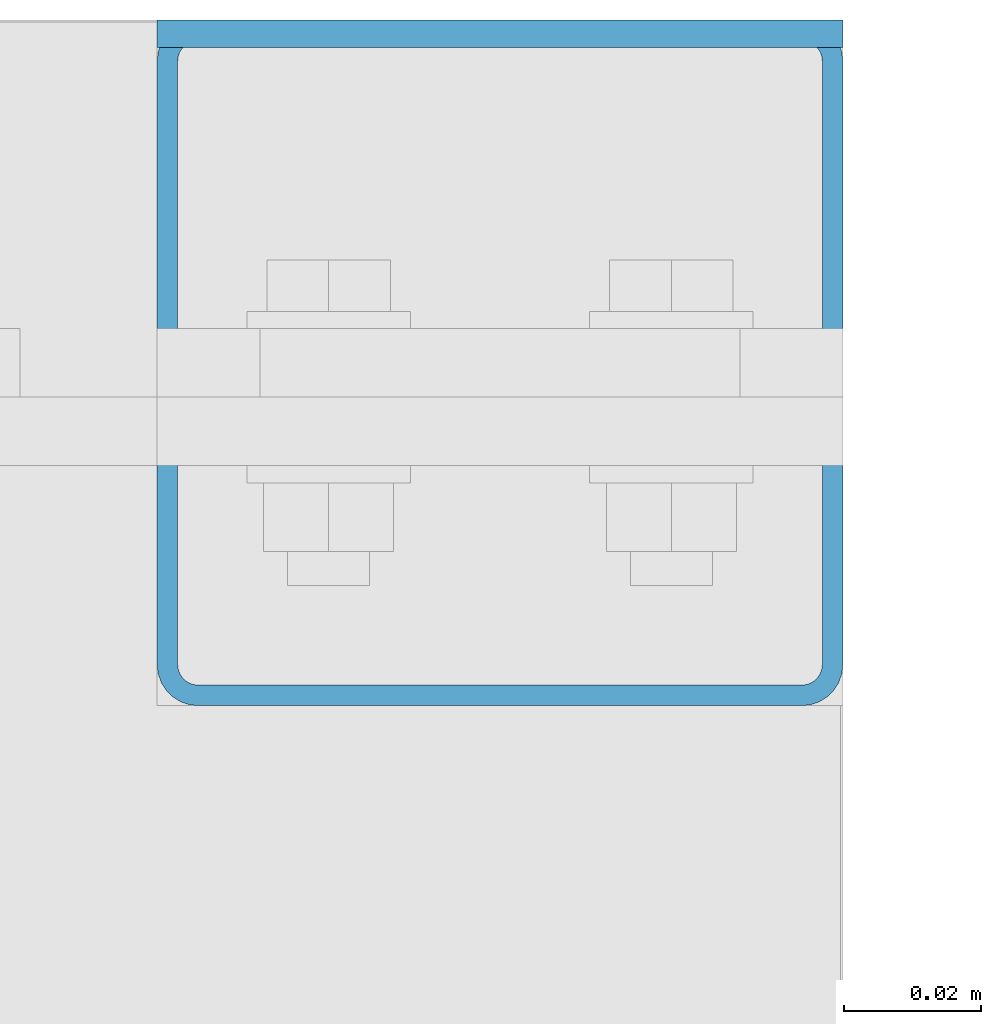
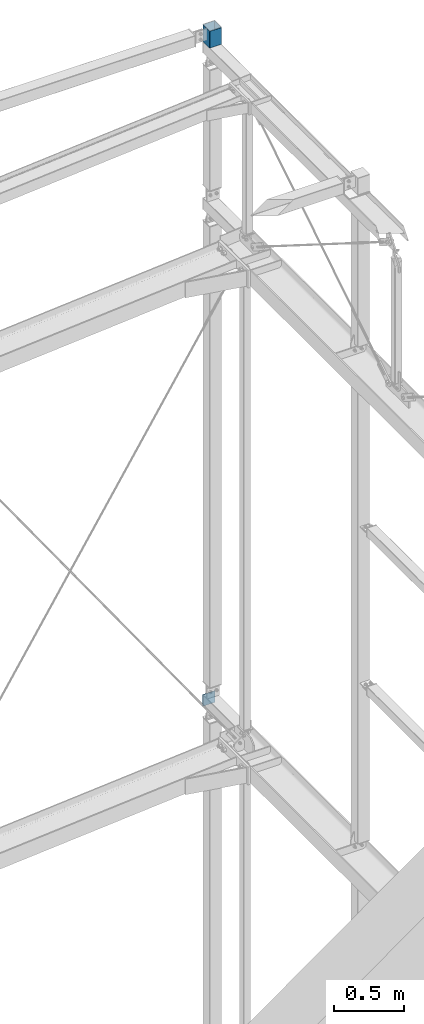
# One storey, part 94 of 271: 2 beams, 2 elements without a shape of their own.
"""IFC2X3 building model written with IfcOpenShell, lengths in millimetres."""

from ifc_helpers import new_model, si_unit, frame, origin_with_axes, origin_2d_with_axis, place, context, subcontext, project, spatial, rectangle, hollow_rectangle, extrude, clip, halfspace, material, type_object, element, aggregate, save


model = new_model("IFC2X3")

# Units and contexts
model_context = context("Model", 3, precision=1e-05, world=origin_with_axes())
body_context = subcontext(model_context, "Body", "Model", "MODEL_VIEW")
ifc_project = project(units=[si_unit("LENGTHUNIT", "METRE", prefix="MILLI"), si_unit("AREAUNIT", "SQUARE_METRE"), si_unit("VOLUMEUNIT", "CUBIC_METRE"), si_unit("MASSUNIT", "GRAM", prefix="KILO"), si_unit("TIMEUNIT", "SECOND"), si_unit("PLANEANGLEUNIT", "RADIAN"), si_unit("SOLIDANGLEUNIT", "STERADIAN"), si_unit("THERMODYNAMICTEMPERATUREUNIT", "DEGREE_CELSIUS"), si_unit("LUMINOUSINTENSITYUNIT", "LUMEN")], contexts=[model_context])

# Site, building, storey
site_placement = place(None, origin_with_axes())
site = spatial("IfcSite", under=ifc_project, at=site_placement, Name="Undefined", CompositionType="ELEMENT")
building_placement = place(site_placement, origin_with_axes())
building = spatial("IfcBuilding", under=site, at=building_placement, Name="Undefined", CompositionType="ELEMENT")
storey_placement = place(building_placement, origin_with_axes())
storey = spatial("IfcBuildingStorey", under=building, at=storey_placement, Name="Undefined", CompositionType="ELEMENT", Elevation=0.0)

# Assembly, beam
assembly_1_placement = place(storey_placement, origin_with_axes())
assembly_1 = element("IfcElementAssembly", 1, at=assembly_1_placement, inside=storey, AssemblyPlace="NOTDEFINED", PredefinedType="RIGID_FRAME")
ifc_material = material(Name="STEEL/S355JR")
beam_type_1 = type_object("IfcBeamType", Name="SHS100*3", PredefinedType="NOTDEFINED")
beam_1_placement = place(assembly_1_placement, frame((12658.3756870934, 4909.32498425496, 20204.3499999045), z_axis=(0.0, 1.0, 0.0), x_axis=(0.0, 0.0, -1.0)))
beam_1 = element("IfcBeam", 2, at=beam_1_placement, type_object=beam_type_1, material=ifc_material, Name="RYGIEL ATTYKOWY", ObjectType="SHS100*3", context=body_context, shape_type="Clipping", body=[
    clip(extrude(hollow_rectangle(XDim=100.0, YDim=100.0, WallThickness=3.0, InnerFilletRadius=3.0, OuterFilletRadius=6.0, at=origin_2d_with_axis()), frame((150.0, 0.0, 0.0), z_axis=(-1.0, 0.0, 1.38777878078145e-17), x_axis=(0.0, -1.0, 0.0)), (0.0, 0.0, 1.0), 150.0), halfspace(frame((4.0, 0.0, -50.0), z_axis=(1.0, 0.0, 0.0), x_axis=(0.0, -1.0, 0.0)), True)),
])
aggregate(assembly_1, [beam_1])

assembly_2_placement = place(storey_placement, origin_with_axes())
assembly_2 = element("IfcElementAssembly", 3, at=assembly_2_placement, inside=storey, AssemblyPlace="NOTDEFINED", PredefinedType="RIGID_FRAME")
beam_type_2 = type_object("IfcBeamType", Name="BL4*100", PredefinedType="NOTDEFINED")
beam_2_placement = place(assembly_2_placement, frame((12608.3756870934, 4957.32498425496, 14324.3499999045), z_axis=(0.0, 0.0, 1.0), x_axis=(1.0, 0.0, 0.0)))
beam_2 = element("IfcBeam", 4, at=beam_2_placement, type_object=beam_type_2, material=ifc_material, Name="BLACHA", ObjectType="BL4*100", context=body_context, shape_type="SweptSolid", body=[
    extrude(rectangle(XDim=4.0, YDim=100.0, at=origin_2d_with_axis()), frame((100.0, 0.0, 0.0), z_axis=(-1.0, 0.0, 1.38777878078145e-17), x_axis=(0.0, -1.0, 0.0)), (0.0, 0.0, 1.0), 100.0),
])
aggregate(assembly_2, [beam_2])

save(model, "model.ifc")
